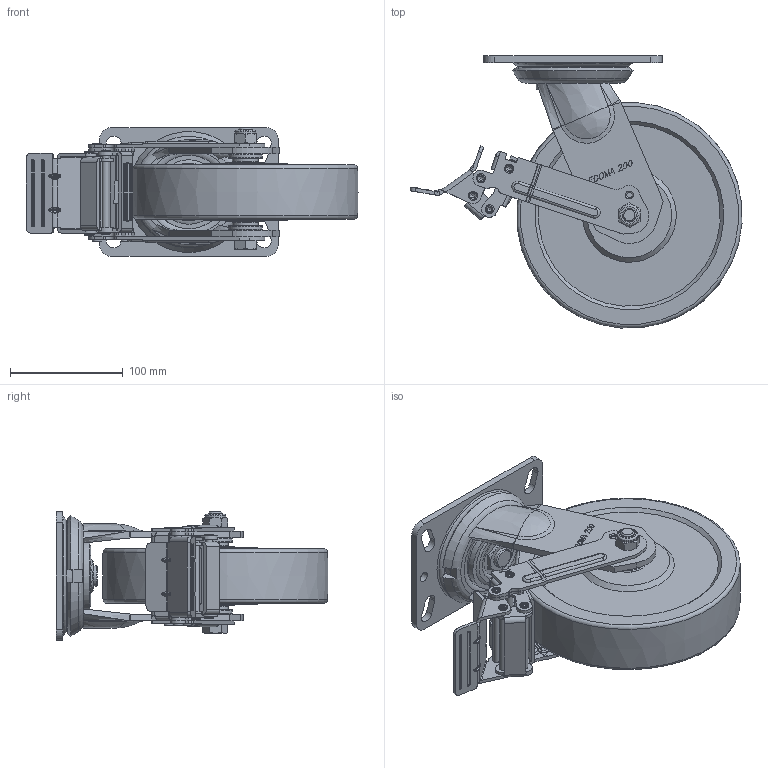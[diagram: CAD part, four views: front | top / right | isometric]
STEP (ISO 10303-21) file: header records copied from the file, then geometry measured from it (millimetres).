
FILE_DESCRIPTION(/* description */ (''),/* implementation_level */ '2;1');
FILE_NAME(/* name */ 'E:\★.DWG\PMH-SERIES\3D\홈페이지용\20180122-STEP\PMH-200-BSF-MCD-FRN.stp',/* time_stamp */ '2018-01-22T15:05:58+09:00',/* author */ ('장용하'),/* organization */ (''),/* preprocessor_version */ 'ST-DEVELOPER v16.13',/* originating_system */ 'Autodesk Inventor 2018',/* authorisation */ '');
FILE_SCHEMA (('AUTOMOTIVE_DESIGN { 1 0 10303 214 3 1 1 }'));
Products named in the file (1): PMH-200-BSF-MCD-FRN_Shrinkwrap_1
Bounding box: 293.86 x 240.72 x 114 mm (x, y, z)
Volume: 1871352.5 mm3; surface area: 242605.6 mm2
Topology: 3 solids, 3 shells, 1794 faces, 4792 edges, 3064 vertices
Faces by surface type: plane 1192, cylinder 358, bspline 133, torus 73, cone 30, sphere 8
Full cylindrical faces by diameter (mm): 4 x4, 5 x2, 6 x4, 6.2 x17, 7.7 x2, 8 x10, 9 x2, 12 x1, 18 x1, 18.5 x1, 21.667 x2, 21.867 x2, 22.9 x2, 28.133 x2, 28.333 x2, 30 x2, 35 x2, 65 x1, 90.814 x1
Entity records: 59051 total; most frequent: CARTESIAN_POINT 13248, ORIENTED_EDGE 9236, DIRECTION 8707, EDGE_CURVE 4618, LINE 3493, VECTOR 3493, VERTEX_POINT 3033, AXIS2_PLACEMENT_3D 2607
